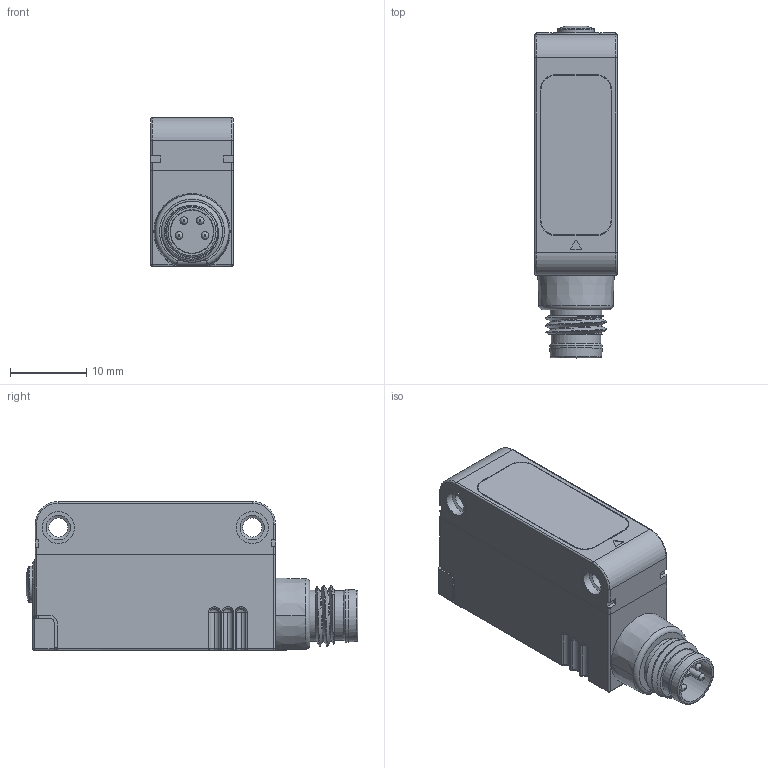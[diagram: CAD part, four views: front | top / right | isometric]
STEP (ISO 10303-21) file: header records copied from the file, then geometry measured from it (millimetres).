
FILE_DESCRIPTION(/* description */ (''),/* implementation_level */ '2;1');
FILE_NAME(/* name */ 'DSD-1165.stp',/* time_stamp */ '2024-06-25T11:44:22+02:00',/* author */ (''),/* organization */ (''),/* preprocessor_version */ 'ST-DEVELOPER v16.701',/* originating_system */ 'SIEMENS PLM Software NX 1946',/* authorisation */ '');
FILE_SCHEMA (('AUTOMOTIVE_DESIGN { 1 0 10303 214 3 1 1 1 }'));
Products named in the file (3): AP061510_00-Bottom Cover per DSD 1165; AP061285_00-Optic Box Group per DSD; AS008632_00-S3N - DSD
Assembly tree (2 placements, depth 2):
  AS008632_00-S3N - DSD
    AP061285_00-Optic Box Group per DSD
    AP061510_00-Bottom Cover per DSD 1165
Bounding box: 10.82 x 43.49 x 19.5 mm (x, y, z)
Volume: 7042.8 mm3; surface area: 5931.9 mm2
Topology: 14 solids, 29 shells, 2338 faces, 6379 edges, 4157 vertices
Faces by surface type: plane 1188, cylinder 572, extrusion 309, torus 96, bspline 85, sphere 47, cone 41
Full cylindrical faces by diameter (mm): 0.5 x2, 0.6 x4, 1 x16, 2.5 x2, 3.2 x4, 3.454 x1, 4.2 x8, 4.244 x1, 4.5 x2, 4.75 x1, 4.85 x1, 5.65 x2, 5.75 x1, 6.5 x1, 6.75 x6, 6.9 x1
Entity records: 81211 total; most frequent: CARTESIAN_POINT 23883, ORIENTED_EDGE 12334, DIRECTION 10736, EDGE_CURVE 6216, VECTOR 4170, VERTEX_POINT 4105, LINE 3861, AXIS2_PLACEMENT_3D 3283
